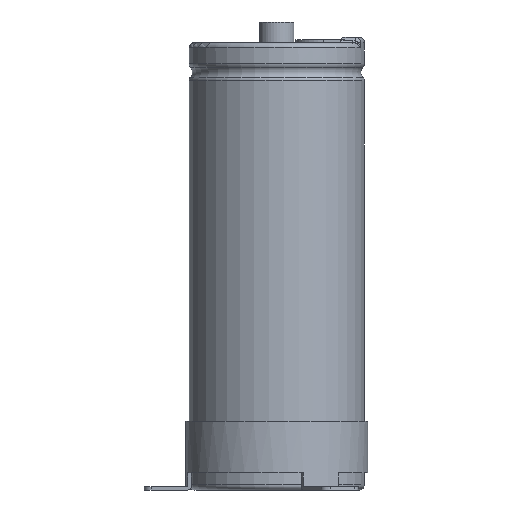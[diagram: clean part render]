
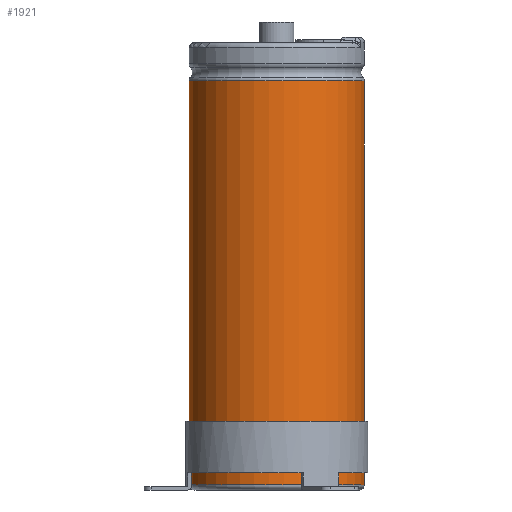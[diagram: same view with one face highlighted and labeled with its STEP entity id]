
A CAD part, front view. The second image highlights one B-rep face of the part: STEP entity #1921.
In plain terms, the highlighted cylindrical face has radius 25.5 mm (diameter 51 mm), a partial arc.
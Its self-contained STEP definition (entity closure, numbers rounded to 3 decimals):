
#940=LINE('',#9285,#1178);
#941=LINE('',#9289,#1179);
#1178=VECTOR('',#6925,1.);
#1179=VECTOR('',#6928,1.);
#1452=FACE_OUTER_BOUND('',#2362,.T.);
#1577=CYLINDRICAL_SURFACE('',#5769,25.5);
#1921=ADVANCED_FACE('',(#1452),#1577,.T.);
#2362=EDGE_LOOP('',(#3435,#3436,#3437,#3438));
#3435=ORIENTED_EDGE('',*,*,#4849,.T.);
#3436=ORIENTED_EDGE('',*,*,#4850,.T.);
#3437=ORIENTED_EDGE('',*,*,#4851,.F.);
#3438=ORIENTED_EDGE('',*,*,#4852,.F.);
#4222=VERTEX_POINT('',#9278);
#4224=VERTEX_POINT('',#9282);
#4225=VERTEX_POINT('',#9286);
#4226=VERTEX_POINT('',#9288);
#4849=EDGE_CURVE('',#4222,#4224,#5258,.T.);
#4850=EDGE_CURVE('',#4224,#4225,#940,.T.);
#4851=EDGE_CURVE('',#4226,#4225,#5259,.T.);
#4852=EDGE_CURVE('',#4222,#4226,#941,.T.);
#5258=CIRCLE('',#5766,25.5);
#5259=CIRCLE('',#5768,25.5);
#5766=AXIS2_PLACEMENT_3D('',#9283,#6921,#6922);
#5768=AXIS2_PLACEMENT_3D('',#9287,#6926,#6927);
#5769=AXIS2_PLACEMENT_3D('',#9290,#6929,#6930);
#6921=DIRECTION('',(0.,0.,-1.));
#6922=DIRECTION('',(0.,1.,0.));
#6925=DIRECTION('',(0.,0.,-1.));
#6926=DIRECTION('',(0.,0.,-1.));
#6927=DIRECTION('',(0.,1.,0.));
#6928=DIRECTION('',(0.,0.,-1.));
#6929=DIRECTION('',(0.,0.,-1.));
#6930=DIRECTION('',(0.,1.,0.));
#9278=CARTESIAN_POINT('',(3.989,25.186,118.9));
#9282=CARTESIAN_POINT('',(-3.989,25.186,118.9));
#9283=CARTESIAN_POINT('',(0.,0.,118.9));
#9285=CARTESIAN_POINT('',(-3.989,25.186,118.9));
#9286=CARTESIAN_POINT('',(-3.989,25.186,1.5));
#9287=CARTESIAN_POINT('',(0.,0.,1.5));
#9288=CARTESIAN_POINT('',(3.989,25.186,1.5));
#9289=CARTESIAN_POINT('',(3.989,25.186,118.9));
#9290=CARTESIAN_POINT('',(0.,0.,0.));
